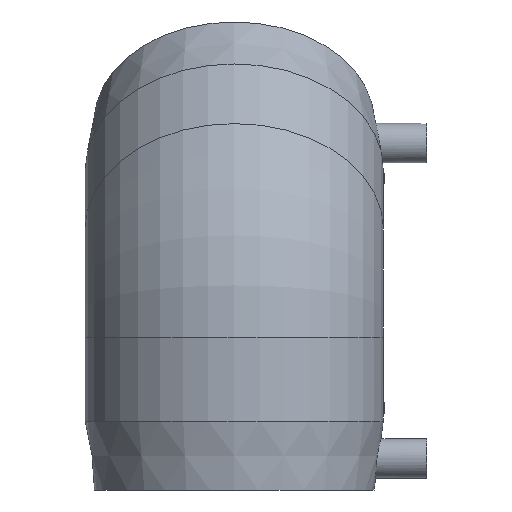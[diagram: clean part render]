
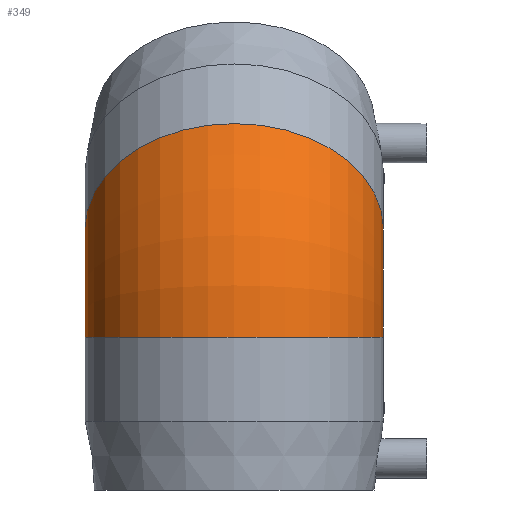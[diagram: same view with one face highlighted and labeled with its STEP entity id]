
A CAD part, left-side view. The second image highlights one B-rep face of the part: STEP entity #349.
In plain terms, the highlighted toroidal (fillet/blend) face has major radius 57.941 mm and minor radius 56.5 mm.
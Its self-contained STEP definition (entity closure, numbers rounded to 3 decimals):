
#21=TOROIDAL_SURFACE('',#405,57.941,56.5);
#76=ORIENTED_EDGE('',*,*,#135,.T.);
#77=ORIENTED_EDGE('',*,*,#136,.F.);
#135=EDGE_CURVE('',#170,#170,#198,.F.);
#136=EDGE_CURVE('',#171,#171,#199,.F.);
#170=VERTEX_POINT('',#649);
#171=VERTEX_POINT('',#652);
#198=CIRCLE('',#404,56.5);
#199=CIRCLE('',#406,56.5);
#237=EDGE_LOOP('',(#76));
#238=EDGE_LOOP('',(#77));
#294=FACE_BOUND('',#237,.T.);
#295=FACE_BOUND('',#238,.T.);
#349=ADVANCED_FACE('',(#294,#295),#21,.T.);
#404=AXIS2_PLACEMENT_3D('',#648,#486,#487);
#405=AXIS2_PLACEMENT_3D('',#650,#488,#489);
#406=AXIS2_PLACEMENT_3D('',#651,#490,#491);
#486=DIRECTION('',(0.,0.,-1.));
#487=DIRECTION('',(1.,0.,0.));
#488=DIRECTION('',(0.,1.,0.));
#489=DIRECTION('',(0.,0.,1.));
#490=DIRECTION('',(-0.707,0.,-0.707));
#491=DIRECTION('',(0.707,0.,-0.707));
#648=CARTESIAN_POINT('',(0.,0.,-24.));
#649=CARTESIAN_POINT('',(56.5,0.,-24.));
#650=CARTESIAN_POINT('',(57.941,0.,-24.));
#651=CARTESIAN_POINT('',(16.971,0.,16.971));
#652=CARTESIAN_POINT('',(56.922,0.,-22.981));
